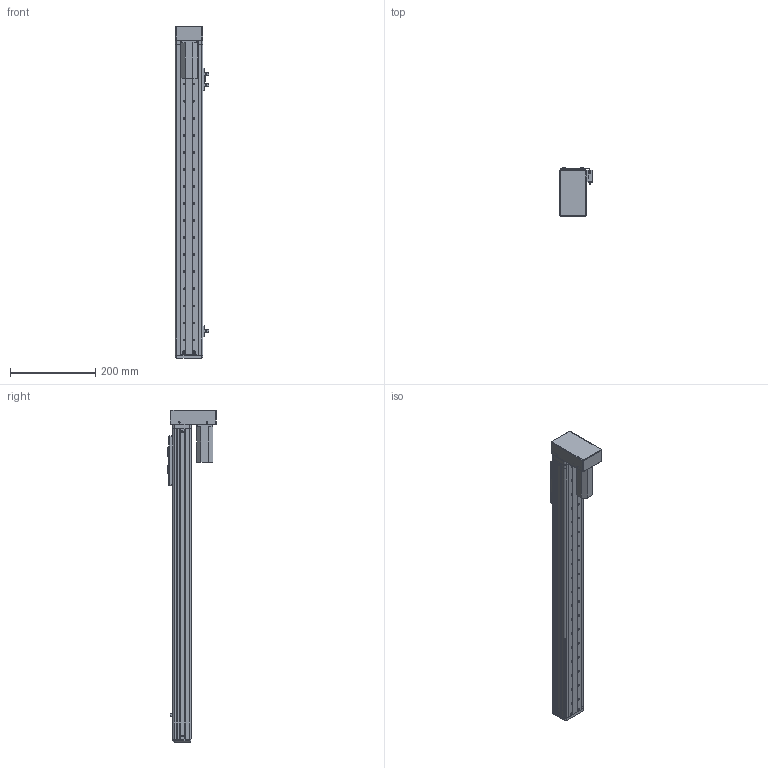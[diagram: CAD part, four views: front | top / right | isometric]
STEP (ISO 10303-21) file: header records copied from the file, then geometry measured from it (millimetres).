
FILE_DESCRIPTION (( 'STEP AP203' ), '1' );
FILE_NAME ('RY60F-L1210-300-BK.SLDASM_550.step', '2021-03-02T06:47:11', ( '盈信电脑' ), ( '东莞市道滘镇水果街19号' ), 'SwSTEP 2.0', 'SolidWorks 2012', '' );
FILE_SCHEMA (( 'CONFIG_CONTROL_DESIGN' ));
Length unit declared in the file: millimetre
Products named in the file (17): RY60F-L1210-300-BK.SLDASM_550; RY60F-转折电机端丝杆安装座; 侂狟100W; RY60F-狟殏萇儂欶(100W); RY60F-狟殏萇儂假蚾啣(100W PCD45 M3); RY50F-300-MR15W蛌殏絳寢-BK_550; RY60F-300-蛌殏滅鳥詩え-BK_550; 俋噤12酗29滅袉蝶; 俋噤12酗38滅袉蝶; RY60F-L1210-300-BK蛌殏俋褲_550; 覜茼ん672; RY60F-祥凄詩滅鳥裔; RY50-60詩湍揤啣; RY60F-浮动端丝杆支撑座; RY60F-嫖萇羲壽結え; RY60F-滅鳥詩え盓殤; RY60F-臏賑輸
Assembly tree (20 placements, depth 2):
  RY60F-L1210-300-BK.SLDASM_550
    RY60F-臏賑輸
    RY60F-浮动端丝杆支撑座
    RY60F-滅鳥詩え盓殤
    RY60F-嫖萇羲壽結え
    RY50-60詩湍揤啣  x2
    RY60F-祥凄詩滅鳥裔
    RY60F-L1210-300-BK蛌殏俋褲_550  x2
    覜茼ん672  x3
    RY60F-300-蛌殏滅鳥詩え-BK_550
    RY50F-300-MR15W蛌殏絳寢-BK_550
    俋噤12酗29滅袉蝶
    俋噤12酗38滅袉蝶
    侂狟100W
    RY60F-转折电机端丝杆安装座
    RY60F-狟殏萇儂假蚾啣(100W PCD45 M3)
    RY60F-狟殏萇儂欶(100W)
Bounding box: 78.7 x 114 x 778 mm (x, y, z)
Volume: 753364.4 mm3; surface area: 525782.9 mm2
Topology: 20 solids, 21 shells, 1073 faces, 2926 edges, 1855 vertices
Faces by surface type: cylinder 498, plane 463, cone 94, bspline 18
Entity records: 32858 total; most frequent: CARTESIAN_POINT 6338, DIRECTION 5237, ORIENTED_EDGE 5016, EDGE_CURVE 2508, AXIS2_PLACEMENT_3D 1874, VERTEX_POINT 1631, VECTOR 1489, LINE 1489
